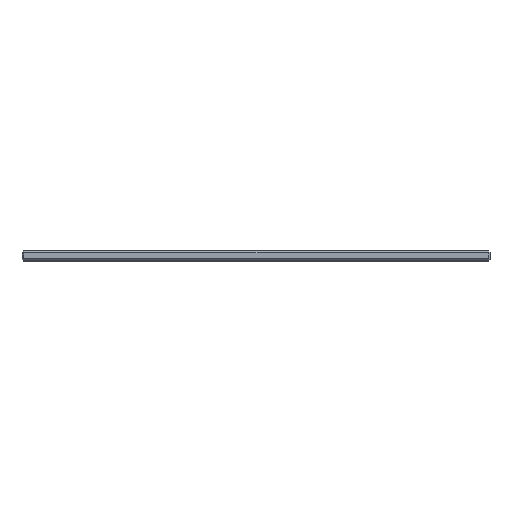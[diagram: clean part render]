
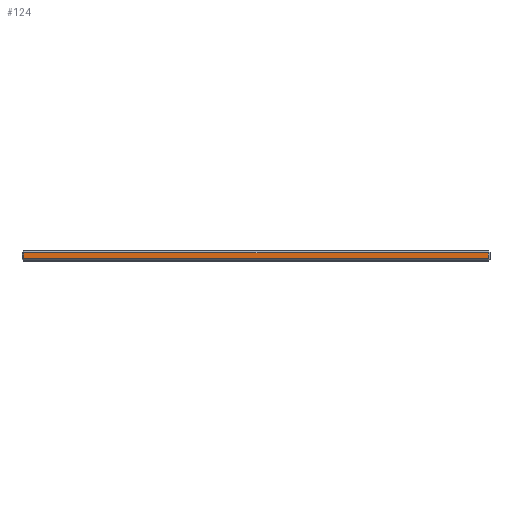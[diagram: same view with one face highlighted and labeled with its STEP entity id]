
A CAD part, top view. The second image highlights one B-rep face of the part: STEP entity #124.
In plain terms, the highlighted planar face has unit normal (0, 0, 1).
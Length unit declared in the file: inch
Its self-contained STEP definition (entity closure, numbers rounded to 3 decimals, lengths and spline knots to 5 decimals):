
#8 = VECTOR ( 'NONE', #1755, 39.37008 ) ;
#94 = ORIENTED_EDGE ( 'NONE', *, *, #159, .T. ) ;
#111 = CARTESIAN_POINT ( 'NONE',  ( -5.9375, 0.05, 5.875 ) ) ;
#124 = ADVANCED_FACE ( 'NONE', ( #408 ), #1559, .F. ) ;
#159 = EDGE_CURVE ( 'NONE', #1336, #1065, #598, .T. ) ;
#190 = VECTOR ( 'NONE', #430, 39.37008 ) ;
#290 = CARTESIAN_POINT ( 'NONE',  ( -5.8875, 0.25, 5.875 ) ) ;
#400 = CARTESIAN_POINT ( 'NONE',  ( -5.8875, 0.05, 5.875 ) ) ;
#408 = FACE_OUTER_BOUND ( 'NONE', #1498, .T. ) ;
#430 = DIRECTION ( 'NONE',  ( 0., -1., 0. ) ) ;
#460 = CARTESIAN_POINT ( 'NONE',  ( 5.8875, 0.05, 5.875 ) ) ;
#518 = LINE ( 'NONE', #1535, #1608 ) ;
#556 = EDGE_CURVE ( 'NONE', #794, #1267, #518, .T. ) ;
#598 = LINE ( 'NONE', #111, #8 ) ;
#645 = CARTESIAN_POINT ( 'NONE',  ( -5.9375, 0.25, 5.875 ) ) ;
#681 = CARTESIAN_POINT ( 'NONE',  ( 5.8875, 0.25, 5.875 ) ) ;
#728 = AXIS2_PLACEMENT_3D ( 'NONE', #645, #1469, #789 ) ;
#730 = ORIENTED_EDGE ( 'NONE', *, *, #1388, .T. ) ;
#789 = DIRECTION ( 'NONE',  ( -1., 0., 0. ) ) ;
#794 = VERTEX_POINT ( 'NONE', #1057 ) ;
#950 = EDGE_CURVE ( 'NONE', #1267, #1336, #1716, .T. ) ;
#1025 = DIRECTION ( 'NONE',  ( -1., 0., 0. ) ) ;
#1057 = CARTESIAN_POINT ( 'NONE',  ( 5.8875, 0.2, 5.875 ) ) ;
#1065 = VERTEX_POINT ( 'NONE', #460 ) ;
#1211 = CARTESIAN_POINT ( 'NONE',  ( -5.8875, 0.2, 5.875 ) ) ;
#1267 = VERTEX_POINT ( 'NONE', #1211 ) ;
#1290 = LINE ( 'NONE', #681, #1562 ) ;
#1336 = VERTEX_POINT ( 'NONE', #400 ) ;
#1373 = ORIENTED_EDGE ( 'NONE', *, *, #950, .T. ) ;
#1388 = EDGE_CURVE ( 'NONE', #1065, #794, #1290, .T. ) ;
#1469 = DIRECTION ( 'NONE',  ( 0., 0., -1. ) ) ;
#1498 = EDGE_LOOP ( 'NONE', ( #94, #730, #1723, #1373 ) ) ;
#1535 = CARTESIAN_POINT ( 'NONE',  ( -5.9375, 0.2, 5.875 ) ) ;
#1559 = PLANE ( 'NONE',  #728 ) ;
#1562 = VECTOR ( 'NONE', #1640, 39.37008 ) ;
#1608 = VECTOR ( 'NONE', #1025, 39.37008 ) ;
#1640 = DIRECTION ( 'NONE',  ( 0., 1., 0. ) ) ;
#1716 = LINE ( 'NONE', #290, #190 ) ;
#1723 = ORIENTED_EDGE ( 'NONE', *, *, #556, .T. ) ;
#1755 = DIRECTION ( 'NONE',  ( 1., 0., 0. ) ) ;
